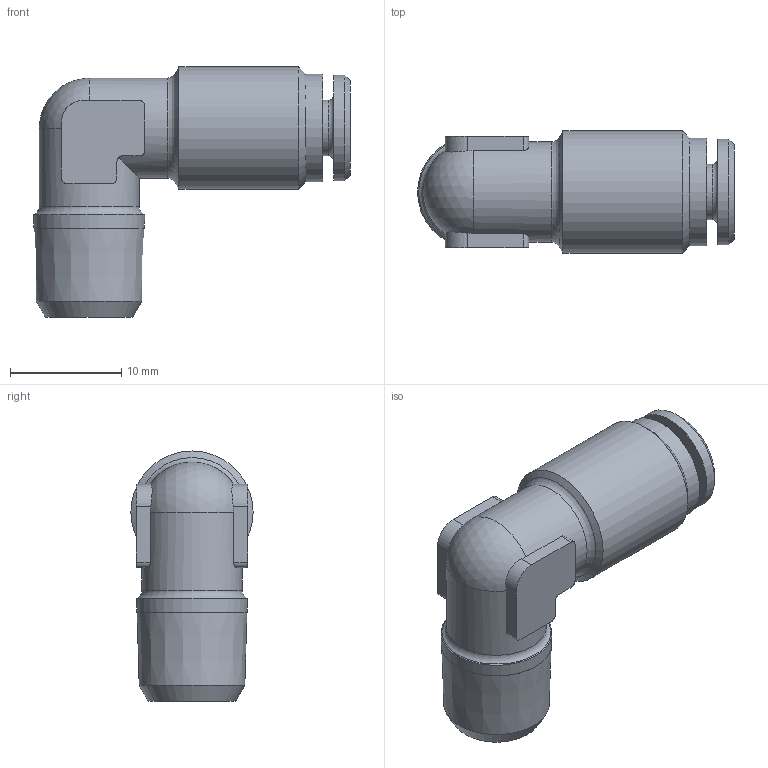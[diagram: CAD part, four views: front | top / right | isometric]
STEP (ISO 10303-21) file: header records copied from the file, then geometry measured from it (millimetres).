
FILE_DESCRIPTION(/* description */ (''),/* implementation_level */ '2;1');
FILE_NAME(/* name */ 'H190418_HDS_14_4_1-8',/* time_stamp */ '2016-12-05T16:11:11+01:00',/* author */ (''),/* organization */ (''),/* preprocessor_version */ 'ST-DEVELOPER v16.5',/* originating_system */ 'HiCAD 2016 2102.0 Build 402',/* authorisation */ '');
FILE_SCHEMA (('AUTOMOTIVE_DESIGN { 1 0 10303 214 1 1 1 1 }'));
Length unit declared in the file: millimetre
Products named in the file (3): Root; ONLINE_DR4_HDS_26.11.15; RH140418
Assembly tree (2 placements, depth 2):
  Root
    ONLINE_DR4_HDS_26.11.15
    RH140418
Bounding box: 28.5 x 11 x 22.5 mm (x, y, z)
Volume: 2124.6 mm3; surface area: 2593.6 mm2
Topology: 2 solids, 2 shells, 70 faces, 169 edges, 107 vertices
Faces by surface type: cylinder 25, plane 23, cone 16, torus 5, sphere 1
Full cylindrical faces by diameter (mm): 3 x1, 4.2 x2, 5 x1, 5.5 x1, 7.3 x1, 8 x1, 8.3 x1, 9 x2, 9.5 x1, 9.7 x1, 11 x1
Entity records: 3536 total; most frequent: CARTESIAN_POINT 749, DIRECTION 322, PRESENTATION_STYLE_ASSIGNMENT 256, COLOUR_RGB 256, DRAUGHTING_PRE_DEFINED_CURVE_FONT 254, CURVE_STYLE 254, OVER_RIDING_STYLED_ITEM 254, ORIENTED_EDGE 254
